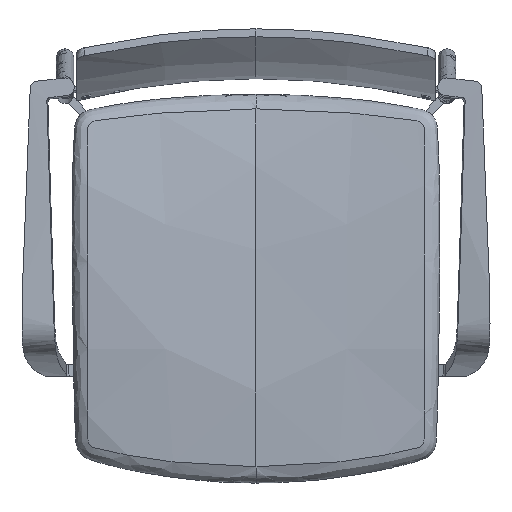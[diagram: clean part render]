
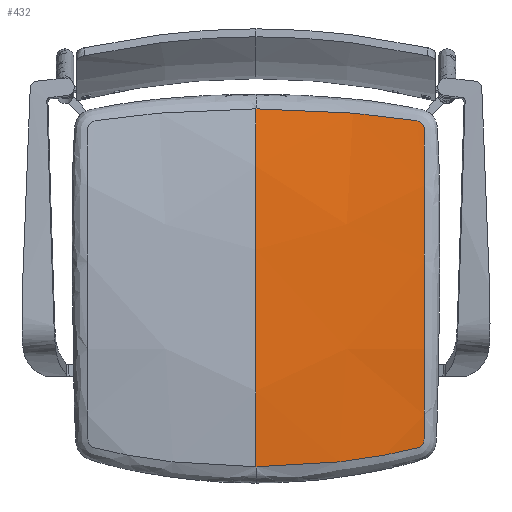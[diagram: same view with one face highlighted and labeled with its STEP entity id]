
A CAD part, top view. The second image highlights one B-rep face of the part: STEP entity #432.
In plain terms, the highlighted free-form (B-spline) face has degree [3, 3] with [6, 5] control points.
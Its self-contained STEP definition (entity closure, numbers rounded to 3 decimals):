
#211=B_SPLINE_SURFACE_WITH_KNOTS('',3,3,((#6552,#6553,#6554,#6555,#6556),
(#6557,#6558,#6559,#6560,#6561),(#6562,#6563,#6564,#6565,#6566),(#6567,
#6568,#6569,#6570,#6571),(#6572,#6573,#6574,#6575,#6576),(#6577,#6578,#6579,
#6580,#6581)),.UNSPECIFIED.,.F.,.F.,.F.,(4,1,1,4),(4,1,4),(0.,150.405,
300.811,451.216),(0.,113.023,226.045),
 .UNSPECIFIED.);
#432=ADVANCED_FACE('',(#556),#211,.T.);
#556=FACE_OUTER_BOUND('',#680,.T.);
#680=EDGE_LOOP('',(#1193,#1194));
#1193=ORIENTED_EDGE('',*,*,#1472,.F.);
#1194=ORIENTED_EDGE('',*,*,#1475,.F.);
#1472=EDGE_CURVE('',#1849,#1848,#1665,.T.);
#1475=EDGE_CURVE('',#1848,#1849,#1668,.T.);
#1665=B_SPLINE_CURVE_WITH_KNOTS('',3,(#7180,#7181,#7182,#7183,#7184,#7185),
 .UNSPECIFIED.,.F.,.F.,(4,1,1,4),(14.636,150.405,300.811,
436.736),.UNSPECIFIED.);
#1668=B_SPLINE_CURVE_WITH_KNOTS('',3,(#7256,#7257,#7258,#7259,#7260,#7261,
#7262,#7263,#7264,#7265,#7266,#7267,#7268,#7269,#7270,#7271,#7272,#7273,
#7274,#7275,#7276,#7277,#7278,#7279,#7280,#7281,#7282,#7283,#7284,#7285,
#7286,#7287,#7288,#7289,#7290,#7291,#7292,#7293,#7294,#7295,#7296,#7297,
#7298,#7299,#7300,#7301,#7302,#7303,#7304,#7305,#7306,#7307,#7308,#7309,
#7310,#7311,#7312,#7313,#7314,#7315,#7316,#7317,#7318,#7319,#7320,#7321),
 .UNSPECIFIED.,.F.,.F.,(4,2,2,2,1,1,1,2,2,2,2,2,1,1,1,2,2,2,2,2,2,2,2,2,
1,1,1,2,2,2,2,2,1,1,1,2,2,2,4),(-834.547,-732.977,-707.585,
-682.192,-634.077,-631.407,-628.738,
-626.069,-623.399,-620.73,-618.061,
-615.391,-612.722,-610.053,-607.384,
-561.831,-513.608,-489.497,-465.386,
-417.164,-368.942,-344.831,-320.72,
-272.498,-226.987,-224.275,-221.564,
-218.853,-216.141,-213.43,-210.718,
-208.007,-205.295,-202.584,-199.872,
-151.938,-126.615,-101.292,0.),.UNSPECIFIED.);
#1848=VERTEX_POINT('',#7172);
#1849=VERTEX_POINT('',#7173);
#6552=CARTESIAN_POINT('',(222.5,-257.5,447.92));
#6553=CARTESIAN_POINT('',(186.336,-267.419,456.436));
#6554=CARTESIAN_POINT('',(112.582,-282.432,461.217));
#6555=CARTESIAN_POINT('',(37.527,-287.459,461.479));
#6556=CARTESIAN_POINT('',(0.,-287.459,461.479));
#6557=CARTESIAN_POINT('',(222.5,-210.234,456.665));
#6558=CARTESIAN_POINT('',(186.401,-218.252,466.09));
#6559=CARTESIAN_POINT('',(112.677,-230.383,469.207));
#6560=CARTESIAN_POINT('',(37.559,-234.444,468.909));
#6561=CARTESIAN_POINT('',(0.,-234.444,468.909));
#6562=CARTESIAN_POINT('',(222.5,-115.677,460.522));
#6563=CARTESIAN_POINT('',(186.531,-119.935,467.649));
#6564=CARTESIAN_POINT('',(112.867,-126.362,463.263));
#6565=CARTESIAN_POINT('',(37.622,-128.511,461.788));
#6566=CARTESIAN_POINT('',(0.,-128.511,461.788));
#6567=CARTESIAN_POINT('',(222.5,26.117,455.406));
#6568=CARTESIAN_POINT('',(186.726,27.366,458.741));
#6569=CARTESIAN_POINT('',(113.151,29.293,448.584));
#6570=CARTESIAN_POINT('',(37.717,29.944,445.172));
#6571=CARTESIAN_POINT('',(0.,29.944,445.172));
#6572=CARTESIAN_POINT('',(222.5,120.418,444.736));
#6573=CARTESIAN_POINT('',(186.856,125.229,445.319));
#6574=CARTESIAN_POINT('',(113.341,132.56,434.981));
#6575=CARTESIAN_POINT('',(37.78,135.024,430.165));
#6576=CARTESIAN_POINT('',(0.,135.024,430.165));
#6577=CARTESIAN_POINT('',(222.5,167.5,432.588));
#6578=CARTESIAN_POINT('',(186.92,174.063,429.741));
#6579=CARTESIAN_POINT('',(113.436,184.054,417.229));
#6580=CARTESIAN_POINT('',(37.812,187.409,411.683));
#6581=CARTESIAN_POINT('',(0.,187.409,411.683));
#7172=CARTESIAN_POINT('',(0.,172.275,416.725));
#7173=CARTESIAN_POINT('',(0.,-271.984,463.345));
#7180=CARTESIAN_POINT('',(0.,-271.984,463.345));
#7181=CARTESIAN_POINT('',(0.,-224.136,468.206));
#7182=CARTESIAN_POINT('',(0.,-123.372,461.249));
#7183=CARTESIAN_POINT('',(0.,24.859,445.705));
#7184=CARTESIAN_POINT('',(0.,124.906,431.601));
#7185=CARTESIAN_POINT('',(0.,172.275,416.725));
#7256=CARTESIAN_POINT('',(0.,172.275,416.725));
#7257=CARTESIAN_POINT('',(33.428,172.274,416.725));
#7258=CARTESIAN_POINT('',(66.833,171.067,418.808));
#7259=CARTESIAN_POINT('',(108.273,168.045,423.155));
#7260=CARTESIAN_POINT('',(116.546,167.365,424.119));
#7261=CARTESIAN_POINT('',(133.064,165.851,426.169));
#7262=CARTESIAN_POINT('',(141.303,165.018,427.245));
#7263=CARTESIAN_POINT('',(165.179,162.377,430.343));
#7264=CARTESIAN_POINT('',(181.515,160.261,432.451));
#7265=CARTESIAN_POINT('',(199.038,157.674,434.137));
#7266=CARTESIAN_POINT('',(200.949,157.297,434.337));
#7267=CARTESIAN_POINT('',(202.303,156.803,434.534));
#7268=CARTESIAN_POINT('',(203.554,156.216,434.745));
#7269=CARTESIAN_POINT('',(204.158,155.865,434.863));
#7270=CARTESIAN_POINT('',(205.273,155.048,435.12));
#7271=CARTESIAN_POINT('',(205.785,154.581,435.26));
#7272=CARTESIAN_POINT('',(206.691,153.546,435.555));
#7273=CARTESIAN_POINT('',(207.084,152.978,435.71));
#7274=CARTESIAN_POINT('',(207.737,151.775,436.029));
#7275=CARTESIAN_POINT('',(207.999,151.137,436.193));
#7276=CARTESIAN_POINT('',(208.399,149.838,436.519));
#7277=CARTESIAN_POINT('',(208.689,148.451,436.857));
#7278=CARTESIAN_POINT('',(208.776,146.557,437.302));
#7279=CARTESIAN_POINT('',(208.742,129.822,441.126));
#7280=CARTESIAN_POINT('',(208.749,114.125,444.006));
#7281=CARTESIAN_POINT('',(208.73,83.211,448.722));
#7282=CARTESIAN_POINT('',(208.724,67.267,450.629));
#7283=CARTESIAN_POINT('',(208.712,43.289,453.027));
#7284=CARTESIAN_POINT('',(208.709,35.291,453.748));
#7285=CARTESIAN_POINT('',(208.701,19.285,455.088));
#7286=CARTESIAN_POINT('',(208.697,11.276,455.707));
#7287=CARTESIAN_POINT('',(208.686,-12.757,457.414));
#7288=CARTESIAN_POINT('',(208.678,-28.794,458.35));
#7289=CARTESIAN_POINT('',(208.663,-60.887,459.815));
#7290=CARTESIAN_POINT('',(208.656,-76.942,460.344));
#7291=CARTESIAN_POINT('',(208.644,-101.031,460.833));
#7292=CARTESIAN_POINT('',(208.641,-109.063,460.945));
#7293=CARTESIAN_POINT('',(208.633,-125.124,461.068));
#7294=CARTESIAN_POINT('',(208.629,-133.157,461.078));
#7295=CARTESIAN_POINT('',(208.618,-157.252,460.877));
#7296=CARTESIAN_POINT('',(208.609,-173.304,460.433));
#7297=CARTESIAN_POINT('',(208.599,-204.505,458.545));
#7298=CARTESIAN_POINT('',(208.578,-220.395,457.101));
#7299=CARTESIAN_POINT('',(208.596,-237.426,454.773));
#7300=CARTESIAN_POINT('',(208.506,-239.362,454.519));
#7301=CARTESIAN_POINT('',(208.218,-240.795,454.378));
#7302=CARTESIAN_POINT('',(207.826,-242.142,454.27));
#7303=CARTESIAN_POINT('',(207.57,-242.807,454.23));
#7304=CARTESIAN_POINT('',(206.935,-244.072,454.185));
#7305=CARTESIAN_POINT('',(206.555,-244.674,454.18));
#7306=CARTESIAN_POINT('',(205.68,-245.787,454.206));
#7307=CARTESIAN_POINT('',(205.185,-246.298,454.238));
#7308=CARTESIAN_POINT('',(204.107,-247.21,454.334));
#7309=CARTESIAN_POINT('',(203.522,-247.613,454.4));
#7310=CARTESIAN_POINT('',(202.306,-248.306,454.554));
#7311=CARTESIAN_POINT('',(200.982,-248.912,454.74));
#7312=CARTESIAN_POINT('',(199.118,-249.435,455.046));
#7313=CARTESIAN_POINT('',(181.911,-253.338,457.888));
#7314=CARTESIAN_POINT('',(165.65,-256.584,459.503));
#7315=CARTESIAN_POINT('',(141.78,-260.666,461.076));
#7316=CARTESIAN_POINT('',(133.518,-261.96,461.471));
#7317=CARTESIAN_POINT('',(116.939,-264.316,462.095));
#7318=CARTESIAN_POINT('',(108.632,-265.377,462.33));
#7319=CARTESIAN_POINT('',(67.022,-270.093,463.307));
#7320=CARTESIAN_POINT('',(33.509,-271.984,463.344));
#7321=CARTESIAN_POINT('',(0.,-271.984,463.345));
